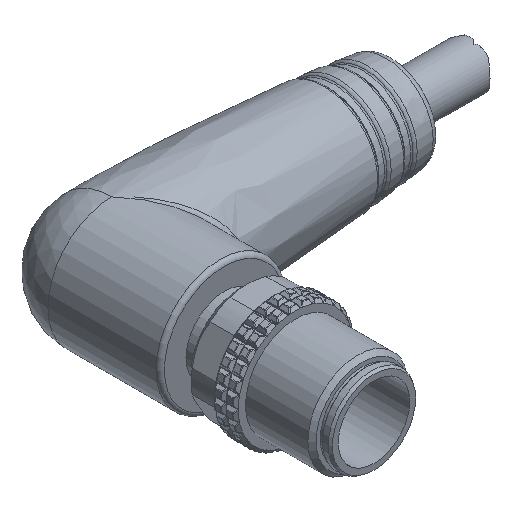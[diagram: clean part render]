
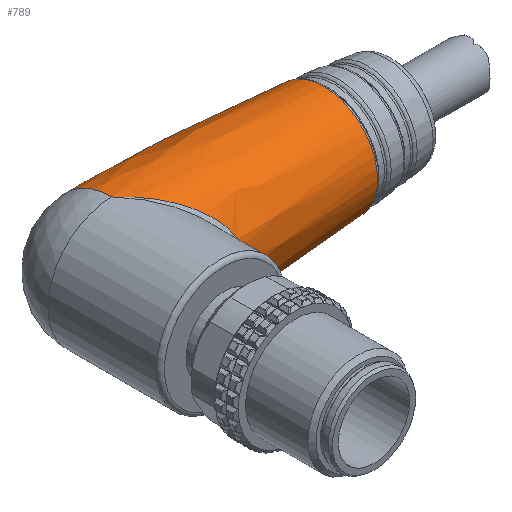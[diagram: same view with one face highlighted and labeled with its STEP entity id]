
A CAD part, isometric view. The second image highlights one B-rep face of the part: STEP entity #789.
In plain terms, the highlighted free-form (B-spline) face has degree [2, 2] with [3, 9] control points.
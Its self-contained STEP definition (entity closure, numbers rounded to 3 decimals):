
#560=CARTESIAN_POINT('',(4.1,13.5,7.7));
#561=VERTEX_POINT('',#560);
#562=CARTESIAN_POINT('',(4.1,13.5,-7.7));
#563=VERTEX_POINT('',#562);
#588=CARTESIAN_POINT('',(4.1,13.5,-7.7));
#589=CARTESIAN_POINT('',(4.104,13.497,-7.7));
#590=CARTESIAN_POINT('',(4.108,13.493,-7.7));
#591=CARTESIAN_POINT('',(4.501,13.15,-7.7));
#592=CARTESIAN_POINT('',(5.282,12.467,-7.652));
#593=CARTESIAN_POINT('',(6.444,11.451,-7.437));
#594=CARTESIAN_POINT('',(7.578,10.461,-7.079));
#595=CARTESIAN_POINT('',(8.684,9.496,-6.563));
#596=CARTESIAN_POINT('',(9.724,8.589,-5.893));
#597=CARTESIAN_POINT('',(10.69,7.747,-5.048));
#598=CARTESIAN_POINT('',(11.532,7.014,-4.024));
#599=CARTESIAN_POINT('',(12.44,6.224,-2.429));
#600=CARTESIAN_POINT('',(12.989,5.747,0.));
#601=CARTESIAN_POINT('',(12.329,6.32,2.915));
#602=CARTESIAN_POINT('',(10.741,7.702,5.136));
#603=CARTESIAN_POINT('',(8.71,9.473,6.645));
#604=CARTESIAN_POINT('',(6.453,11.444,7.51));
#605=CARTESIAN_POINT('',(4.891,12.809,7.699));
#606=CARTESIAN_POINT('',(4.108,13.493,7.7));
#607=CARTESIAN_POINT('',(4.104,13.497,7.7));
#608=CARTESIAN_POINT('',(4.1,13.5,7.7));
#609=B_SPLINE_CURVE_WITH_KNOTS('',3,(#588,#589,#590,#591,#592,#593,#594,#595,#596,#597,#598,#599,#600,#601,#602,#603,#604,#605,#606,#607,#608),.UNSPECIFIED.,.F.,.U.,(4,2,1,1,1,1,1,1,1,1,1,1,1,1,1,2,4),(-0.002,0.0,0.165,0.329,0.494,0.658,0.823,0.987,1.152,1.316,1.645,1.974,2.303,2.632,2.962,3.291,3.292),.UNSPECIFIED.);
#610=EDGE_CURVE('',#563,#561,#609,.T.);
#729=CARTESIAN_POINT('',(4.1,13.5,0.0));
#730=DIRECTION('',(1.0,0.0,0.0));
#731=DIRECTION('',(0.0,1.0,0.0));
#732=AXIS2_PLACEMENT_3D('',#729,#730,#731);
#733=CIRCLE('',#732,7.7);
#734=EDGE_CURVE('',#563,#561,#733,.T.);
#739=CARTESIAN_POINT('',(4.091,13.5,7.7));
#740=CARTESIAN_POINT('',(16.843,13.5,7.7));
#741=CARTESIAN_POINT('',(29.538,13.5,6.499));
#742=CARTESIAN_POINT('',(4.091,21.2,7.7));
#743=CARTESIAN_POINT('',(16.843,21.2,7.7));
#744=CARTESIAN_POINT('',(29.538,19.999,6.499));
#745=CARTESIAN_POINT('',(4.091,21.2,0.));
#746=CARTESIAN_POINT('',(16.843,21.2,0.));
#747=CARTESIAN_POINT('',(29.538,19.999,0.));
#748=CARTESIAN_POINT('',(4.091,21.2,-7.7));
#749=CARTESIAN_POINT('',(16.843,21.2,-7.7));
#750=CARTESIAN_POINT('',(29.538,19.999,-6.499));
#751=CARTESIAN_POINT('',(4.091,13.5,-7.7));
#752=CARTESIAN_POINT('',(16.843,13.5,-7.7));
#753=CARTESIAN_POINT('',(29.538,13.5,-6.499));
#754=CARTESIAN_POINT('',(4.091,5.8,-7.7));
#755=CARTESIAN_POINT('',(16.843,5.8,-7.7));
#756=CARTESIAN_POINT('',(29.538,7.001,-6.499));
#757=CARTESIAN_POINT('',(4.091,5.8,0.));
#758=CARTESIAN_POINT('',(16.843,5.8,0.));
#759=CARTESIAN_POINT('',(29.538,7.001,0.));
#760=CARTESIAN_POINT('',(4.091,5.8,7.7));
#761=CARTESIAN_POINT('',(16.843,5.8,7.7));
#762=CARTESIAN_POINT('',(29.538,7.001,6.499));
#763=CARTESIAN_POINT('',(4.091,13.5,7.7));
#764=CARTESIAN_POINT('',(16.843,13.5,7.7));
#765=CARTESIAN_POINT('',(29.538,13.5,6.499));
#773=(BOUNDED_SURFACE()B_SPLINE_SURFACE(2,2,((#739,#742,#745,#748,#751,#754,#757,#760,#763),(#740,#743,#746,#749,#752,#755,#758,#761,#764),(#741,#744,#747,#750,#753,#756,#759,#762,#765)),.UNSPECIFIED.,.F.,.T.,.U.)B_SPLINE_SURFACE_WITH_KNOTS((3,3),(3,2,2,2,3),(0.,0.094),(0.0,1.571,3.142,4.712,6.283),.UNSPECIFIED.)GEOMETRIC_REPRESENTATION_ITEM()RATIONAL_B_SPLINE_SURFACE(((1.0,0.707,1.0,0.707,1.0,0.707,1.0,0.707,1.0),(0.999,0.706,0.999,0.706,0.999,0.706,0.999,0.706,0.999),(1.0,0.707,1.0,0.707,1.0,0.707,1.0,0.707,1.0)))REPRESENTATION_ITEM('')SURFACE());
#774=ORIENTED_EDGE('',*,*,#610,.F.);
#775=ORIENTED_EDGE('',*,*,#734,.T.);
#776=EDGE_LOOP('',(#774,#775));
#777=FACE_OUTER_BOUND('',#776,.T.);
#778=CARTESIAN_POINT('',(29.538,19.999,0.0));
#779=VERTEX_POINT('',#778);
#780=CARTESIAN_POINT('',(29.538,13.5,0.0));
#781=DIRECTION('',(1.0,0.0,0.0));
#782=DIRECTION('',(0.0,1.0,0.0));
#783=AXIS2_PLACEMENT_3D('',#780,#781,#782);
#784=CIRCLE('',#783,6.499);
#785=EDGE_CURVE('',#779,#779,#784,.T.);
#786=ORIENTED_EDGE('',*,*,#785,.F.);
#787=EDGE_LOOP('',(#786));
#788=FACE_BOUND('',#787,.T.);
#789=ADVANCED_FACE('',(#777,#788),#773,.T.);
